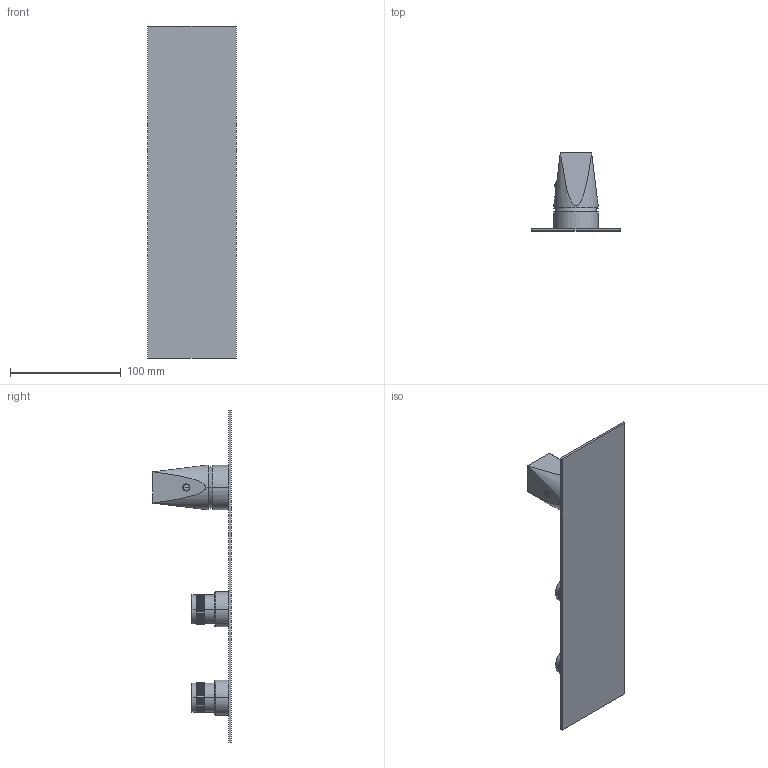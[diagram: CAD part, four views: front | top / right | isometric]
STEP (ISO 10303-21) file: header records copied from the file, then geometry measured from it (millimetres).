
FILE_DESCRIPTION((''),'2;1');
FILE_NAME('49000V221_SW0001','2023-09-21T10:23:09',('carloff'),(''),'CREO PARAMETRIC BY PTC INC, 2022014','CREO PARAMETRIC BY PTC INC, 2022014','');
FILE_SCHEMA(('CONFIG_CONTROL_DESIGN'));
Products named in the file (1): 49000V221_SW0001
Bounding box: 80 x 70.7 x 300 mm (x, y, z)
Volume: 167979.9 mm3; surface area: 64476.3 mm2
Topology: 1 solids, 1 shells, 3312 faces, 8255 edges, 5455 vertices
Faces by surface type: bspline 2562, cylinder 704, plane 25, torus 12, sphere 6, cone 3
Entity records: 140394 total; most frequent: CARTESIAN_POINT 78956, ORIENTED_EDGE 16498, EDGE_CURVE 8249, VERTEX_POINT 5455, B_SPLINE_CURVE_WITH_KNOTS 5202, DIRECTION 4862, EDGE_LOOP 3830, FACE_OUTER_BOUND 3312
